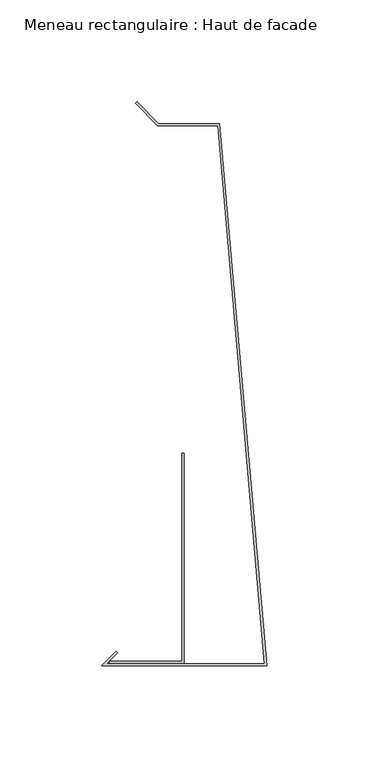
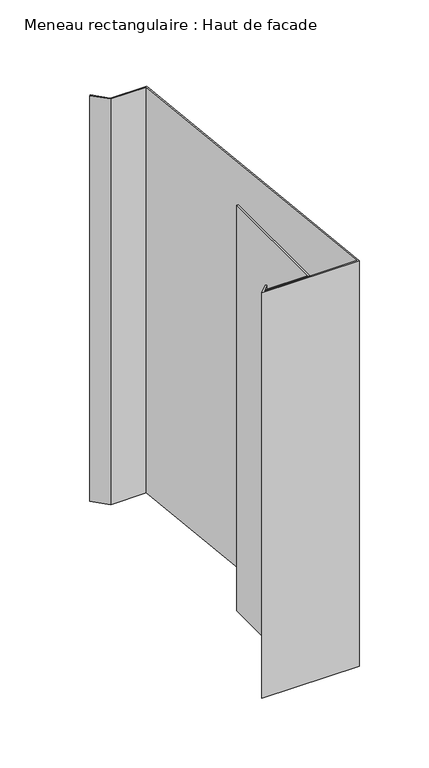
"""IFC4 building model written with IfcOpenShell, lengths in millimetres: member geometry, Meneau rectangulaire : Haut de facade."""

from ifc_helpers import new_model, si_unit, frame, origin, place, context, project, spatial, polyline, outline, extrude, source, transform, mapped, element, save


def meneau_rectangulaire_haut_de_facade_93e36293(model_context):
    return source(origin(), model_context, "Body", "SweptSolid", [
        extrude(outline(polyline([(-24.0647895, 160.703755), (-53.5626719, 160.703755), (-64.4621669, 171.6032499), (-63.7550601, 172.3103567), (-53.1484584, 161.703755), (-23.1484584, 161.703755), (0.0, -104.2), (-81.0, -104.2), (-73.9289322, -97.1289322), (-73.2218254, -97.836039), (-78.5857864, -103.2), (-1.0913085, -103.2), (-24.0647895, 160.703755)])), frame((0.0, 0.0, -356.0), z_axis=(0.0, 0.0, 1.0), x_axis=(1.0, 0.0, 0.0)), (0.0, 0.0, 1.0), 356.0),
        extrude(outline(polyline([(-40.5477541, -102.9846816), (-77.0752814, -102.9846816), (-77.0752814, -101.9846816), (-41.5477541, -101.9846816), (-41.5477541, -0.0384227), (-40.5477541, -0.0384227), (-40.5477541, -102.9846816)])), frame((0.0, 0.0, -356.0), z_axis=(0.0, 0.0, 1.0), x_axis=(1.0, 0.0, 0.0)), (0.0, 0.0, 1.0), 356.0),
    ])


if __name__ == "__main__":
    model = new_model("IFC4")
    model_context = context("Model", 3, world=origin())
    ifc_project = project(units=[si_unit("LENGTHUNIT", "METRE", prefix="MILLI")], contexts=[model_context])
    site = spatial("IfcSite", under=ifc_project)
    building = spatial("IfcBuilding", under=site)
    placement = place(None, origin())
    meneau_rectangulaire_haut_de_facade_shape = meneau_rectangulaire_haut_de_facade_93e36293(model_context)
    element("IfcMember", 1, ObjectType="Meneau rectangulaire : Haut de facade", at=placement, inside=building, context=model_context, shape_type="MappedRepresentation", body=[
        mapped(meneau_rectangulaire_haut_de_facade_shape, transform((0.0, 0.0, 0.0), x_axis=(1.0, 0.0, 0.0), y_axis=(0.0, 1.0, 0.0), z_axis=(0.0, 0.0, 1.0))),
    ])
    save(model, "model.ifc")
